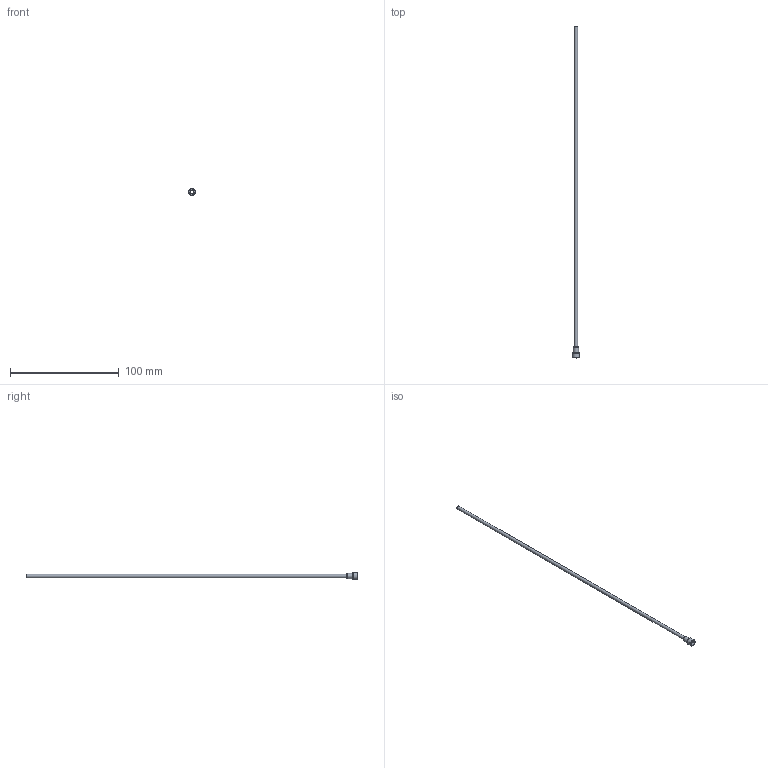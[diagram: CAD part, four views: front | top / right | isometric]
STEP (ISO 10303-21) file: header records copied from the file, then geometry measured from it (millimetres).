
FILE_DESCRIPTION(/* description */ (''),/* implementation_level */ '2;1');
FILE_NAME(/* name */ 'C:/Users/drich/Desktop/R125T-12 v1.step',/* time_stamp */ '2019-12-30T13:13:04-06:00',/* author */ (''),/* organization */ (''),/* preprocessor_version */ 'ST-DEVELOPER v18',/* originating_system */ 'Autodesk Translation Framework v8.12.0.6',/* authorisation */ '');
FILE_SCHEMA (('AUTOMOTIVE_DESIGN { 1 0 10303 214 3 1 1 }'));
Length unit declared in the file: inch
Products named in the file (1): R125T-12
Bounding box: 6.21 x 304.8 x 6.21 mm (x, y, z)
Volume: 705.3 mm3; surface area: 5774.1 mm2
Topology: 1 solids, 1 shells, 19 faces, 47 edges, 33 vertices
Faces by surface type: plane 11, cylinder 4, torus 3, cone 1
Full cylindrical faces by diameter (mm): 2.743 x1, 3.15 x1, 4.727 x1, 6.213 x1
Entity records: 624 total; most frequent: DIRECTION 111, CARTESIAN_POINT 100, ORIENTED_EDGE 94, EDGE_CURVE 47, AXIS2_PLACEMENT_3D 44, VERTEX_POINT 33, EDGE_LOOP 24, CIRCLE 24
